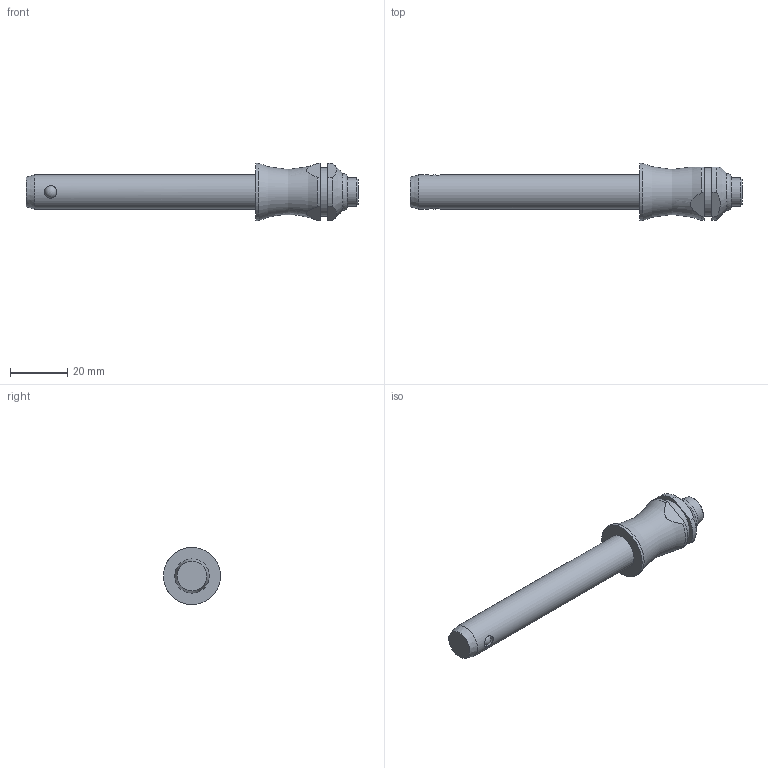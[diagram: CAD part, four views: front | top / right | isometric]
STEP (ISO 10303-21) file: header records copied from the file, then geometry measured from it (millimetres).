
FILE_DESCRIPTION( ( 'STEP AP203' ), '1' );
FILE_NAME( 'C:/Temp/Ganter_Step_05_03_2020/data/3_1/gn113_3/Stainless Steel-Ball lock pin GN 113.3-12-70 (activated).stp', '2020-03-12T08:18:46', ( 'License CC BY-ND 4.0' ), ( 'CADENAS' ), ' ', 'PARTsolutions', ' ' );
FILE_SCHEMA( ( 'CONFIG_CONTROL_DESIGN' ) );
Length unit declared in the file: millimetre
Products named in the file (1): _Stainless Steel-Ball lock pin GN 113.3-12-70 (activated)
Bounding box: 116.35 x 20 x 20 mm (x, y, z)
Volume: 16720.9 mm3; surface area: 5555.3 mm2
Topology: 1 solids, 1 shells, 30 faces, 72 edges, 45 vertices
Faces by surface type: cylinder 12, plane 11, cone 3, torus 2, sphere 2
Full cylindrical faces by diameter (mm): 4.4 x2, 10 x1, 12 x1, 17 x1, 20 x1
Entity records: 1010 total; most frequent: CARTESIAN_POINT 360, DIRECTION 130, ORIENTED_EDGE 102, AXIS2_PLACEMENT_3D 56, EDGE_CURVE 51, EDGE_LOOP 46, VERTEX_POINT 40, FACE_OUTER_BOUND 38
